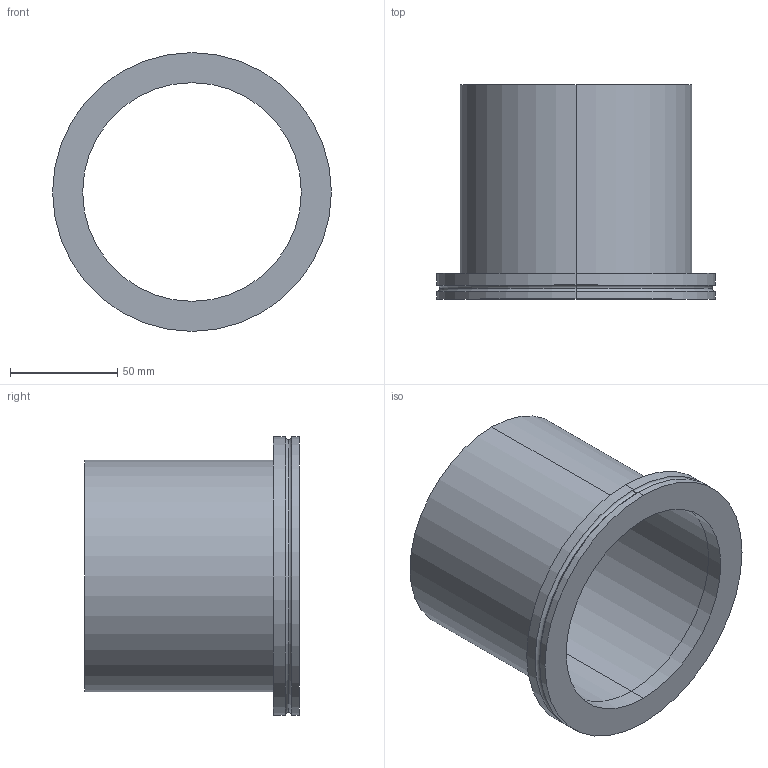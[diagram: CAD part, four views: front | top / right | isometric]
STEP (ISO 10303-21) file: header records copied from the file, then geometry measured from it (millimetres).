
FILE_DESCRIPTION (( 'STEP AP214' ), '1' );
FILE_NAME ('W4KR100.STEP', '2019-04-05T08:27:13', ( '' ), ( '' ), 'SwSTEP 2.0', 'SolidWorks 2018', '' );
FILE_SCHEMA (( 'AUTOMOTIVE_DESIGN' ));
Length unit declared in the file: millimetre
Products named in the file (1): W4KR100
Bounding box: 130 x 100 x 130 mm (x, y, z)
Volume: 140262.8 mm3; surface area: 82484.4 mm2
Topology: 2 solids, 2 shells, 24 faces, 48 edges, 30 vertices
Faces by surface type: cylinder 14, plane 6, torus 4
Entity records: 689 total; most frequent: DIRECTION 132, CARTESIAN_POINT 103, ORIENTED_EDGE 96, AXIS2_PLACEMENT_3D 59, EDGE_CURVE 48, CIRCLE 34, VERTEX_POINT 30, EDGE_LOOP 30
